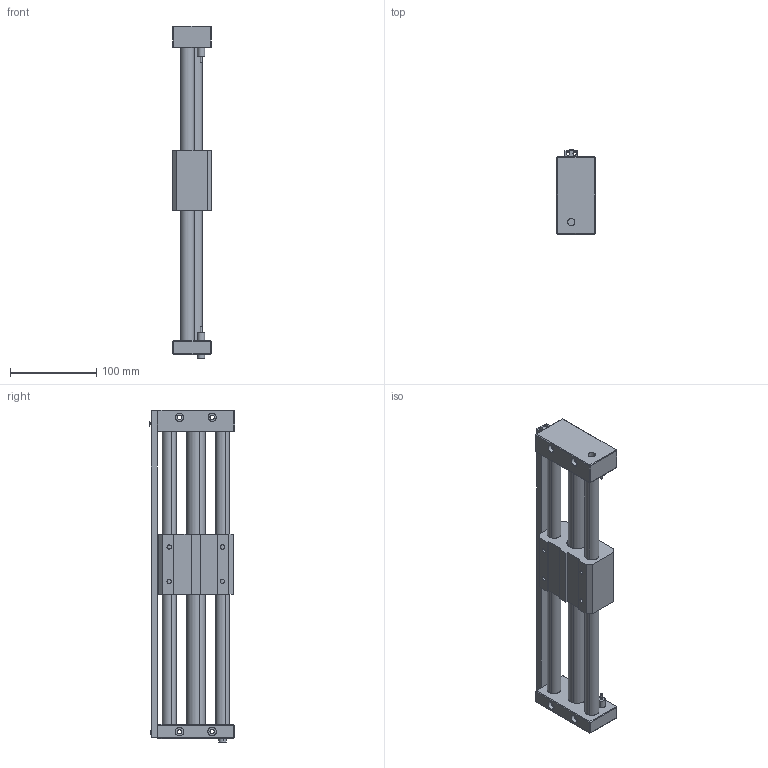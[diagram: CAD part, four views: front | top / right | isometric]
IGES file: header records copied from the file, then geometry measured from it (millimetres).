
Start section: SolidWorks IGES file using analytic representation for surfaces
Global section: file name: D:\Documents de SGA\Pieces 2D et 3D\GRU\iges\Assemblage4.IGS; native system: SolidWorks 2010; preprocessor: SolidWorks 2010; author: SGA; date: 111216.103422; units: millimetre
Bounding box: 45 x 98.86 x 386.03 mm (x, y, z)
Surface area: 157913.8 mm2 (no closed solid volume)
Topology: 0 solids, 0 shells, 211 faces, 3650 edges, 3650 vertices
Faces by surface type: bspline 111, revolution 100
